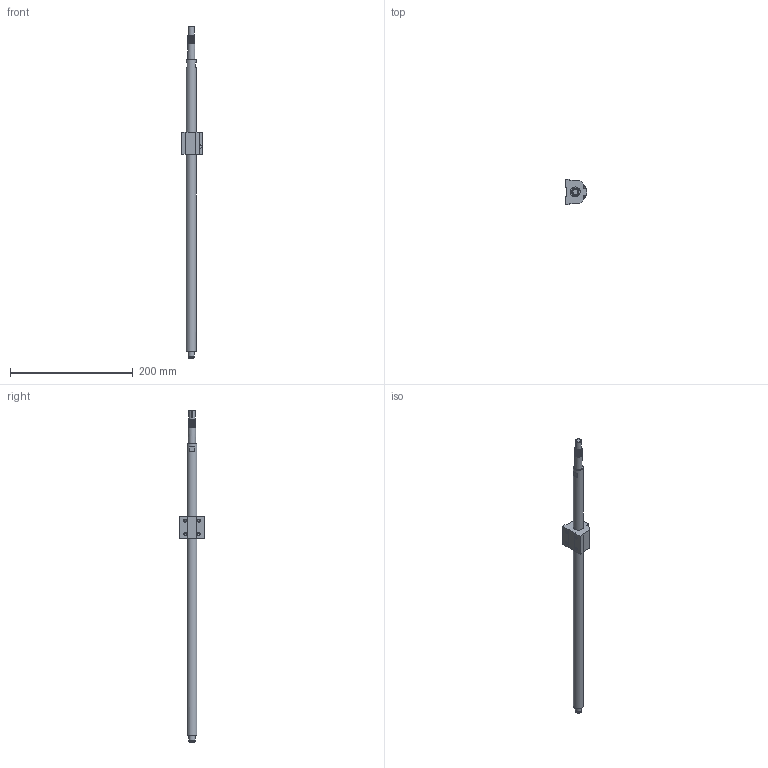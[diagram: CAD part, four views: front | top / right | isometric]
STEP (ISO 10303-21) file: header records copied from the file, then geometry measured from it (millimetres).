
FILE_DESCRIPTION(/* description */ (''),/* implementation_level */ '2;1');
FILE_NAME(/* name */ 'BSG482_asm1.stp',/* time_stamp */ '2017-01-17T15:35:31+08:00',/* author */ (''),/* organization */ (''),/* preprocessor_version */ 'ST-DEVELOPER v15',/* originating_system */ 'SIEMENS PLM Software NX 8.5',/* authorisation */ '');
FILE_SCHEMA (('AUTOMOTIVE_DESIGN { 1 0 10303 214 3 1 1 1 }'));
Length unit declared in the file: millimetre
Products named in the file (3): 01; BSG126; BSG482_asm1
Assembly tree (2 placements, depth 2):
  BSG482_asm1
    BSG126
    01
Bounding box: 34.5 x 42 x 540 mm (x, y, z)
Volume: 134070.4 mm3; surface area: 36835.3 mm2
Topology: 2 solids, 2 shells, 90 faces, 222 edges, 150 vertices
Faces by surface type: plane 47, cylinder 31, cone 6, torus 4, bspline 2
Full cylindrical faces by diameter (mm): 3.5 x2, 4.2 x4, 5 x5, 6 x3, 9.6 x1, 10 x3, 12 x8, 16 x2
Entity records: 3480 total; most frequent: CARTESIAN_POINT 1728, DIRECTION 344, ORIENTED_EDGE 286, EDGE_CURVE 143, EDGE_LOOP 136, AXIS2_PLACEMENT_3D 135, VERTEX_POINT 115, FACE_BOUND 110
